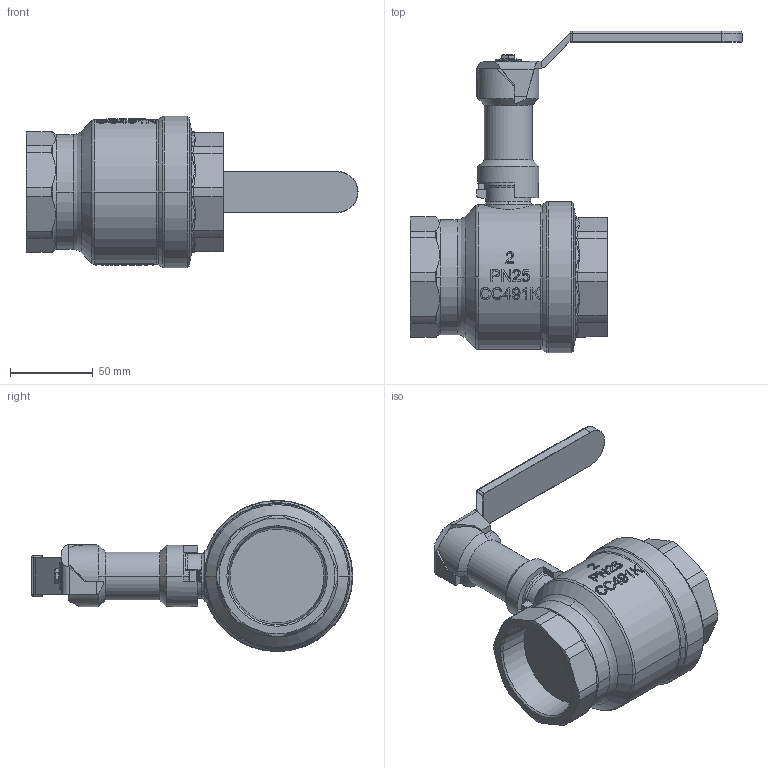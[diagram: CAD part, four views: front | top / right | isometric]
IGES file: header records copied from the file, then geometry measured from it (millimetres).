
Global section: file name: No Iges File Name specified; native system: AutoDesk Inventor R12.0; preprocessor: AutoDesk Inventor Iges Exporter R12.0; date: 20110214.125641; units: millimetre
Bounding box: 200.75 x 194.42 x 91.5 mm (x, y, z)
Volume: 593252 mm3; surface area: 76995.9 mm2
Topology: 1 solids, 1 shells, 1354 faces, 3770 edges, 2472 vertices
Faces by surface type: plane 735, bspline 402, cylinder 88, cone 64, revolution 45, torus 18, sphere 2
